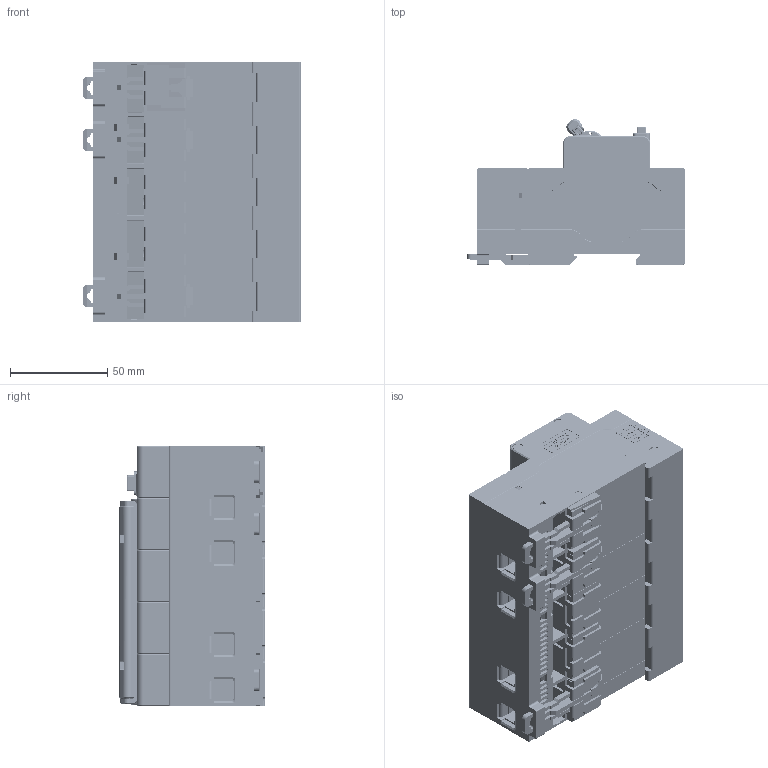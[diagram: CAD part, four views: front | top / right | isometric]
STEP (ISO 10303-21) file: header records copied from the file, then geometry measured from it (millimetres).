
FILE_DESCRIPTION((''),'2;1');
FILE_NAME('2258013500_ASM_SW0001','2019-07-26T',('xiao.wang'),(''),'PRO/ENGINEER BY PARAMETRIC TECHNOLOGY CORPORATION, 2015440','PRO/ENGINEER BY PARAMETRIC TECHNOLOGY CORPORATION, 2015440','');
FILE_SCHEMA(('CONFIG_CONTROL_DESIGN'));
Products named in the file (1): 2258013500_ASM_SW0001
Bounding box: 112.1 x 74.91 x 134 mm (x, y, z)
Volume: 569937.3 mm3; surface area: 235837.3 mm2
Topology: 1 solids, 11 shells, 9492 faces, 27377 edges, 17800 vertices
Faces by surface type: plane 6868, cylinder 1680, extrusion 543, cone 189, torus 124, bspline 51, sphere 37
Entity records: 317663 total; most frequent: CARTESIAN_POINT 67589, ORIENTED_EDGE 54680, DIRECTION 48295, EDGE_CURVE 27340, VECTOR 22007, LINE 21464, VERTEX_POINT 17800, AXIS2_PLACEMENT_3D 13144
